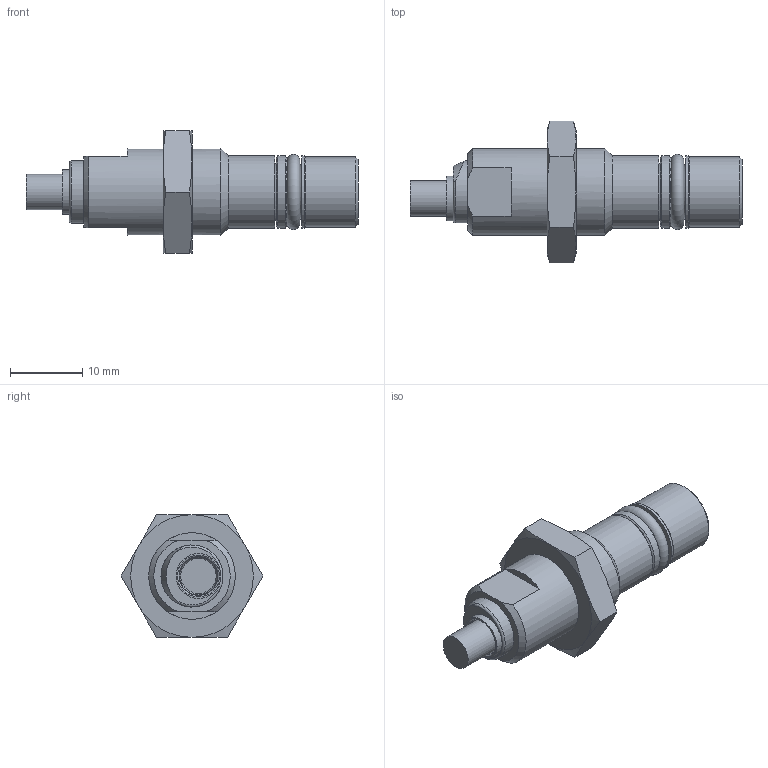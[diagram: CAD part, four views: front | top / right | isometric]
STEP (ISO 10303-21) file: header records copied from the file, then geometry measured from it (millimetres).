
FILE_DESCRIPTION( ( 'STEP AP203' ), ' ' );
FILE_NAME( 'p:/temp/worker_385/4416_3504/app_42_02018041611315656521426192d056f_000000_00_00_000000/format_6/MFH205.stp', '2018-04-16T09:31:58', ( '' ), ( '' ), ' ', 'PARTsolutions', ' ' );
FILE_SCHEMA( ( 'CONFIG_CONTROL_DESIGN' ) );
Length unit declared in the file: millimetre
Products named in the file (3): MFH205; _MFH205_p1; _MFH205_p2
Assembly tree (2 placements, depth 2):
  MFH205
    _MFH205_p1
    _MFH205_p2
Bounding box: 46 x 19.63 x 17 mm (x, y, z)
Volume: 4388.3 mm3; surface area: 2476.7 mm2
Topology: 2 solids, 2 shells, 61 faces, 126 edges, 75 vertices
Faces by surface type: cone 23, plane 21, cylinder 11, torus 6
Full cylindrical faces by diameter (mm): 4.9 x1, 5.4 x1, 6.2 x1, 7.3 x1, 8.6 x1, 9.7 x1, 10 x3, 10.917 x1, 12 x1
Entity records: 1642 total; most frequent: CARTESIAN_POINT 381, DIRECTION 248, ORIENTED_EDGE 196, AXIS2_PLACEMENT_3D 117, EDGE_CURVE 98, EDGE_LOOP 93, FACE_OUTER_BOUND 77, VERTEX_POINT 72
